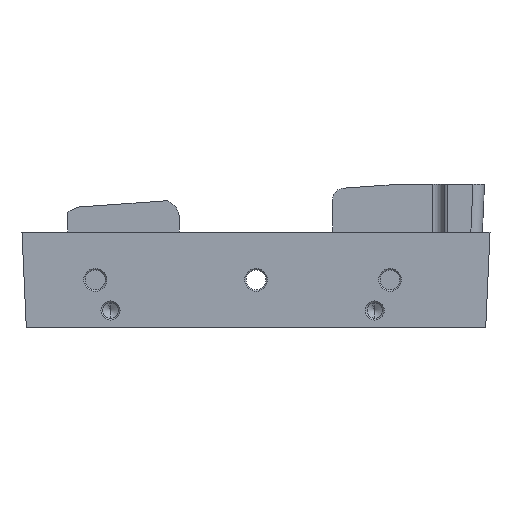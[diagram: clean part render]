
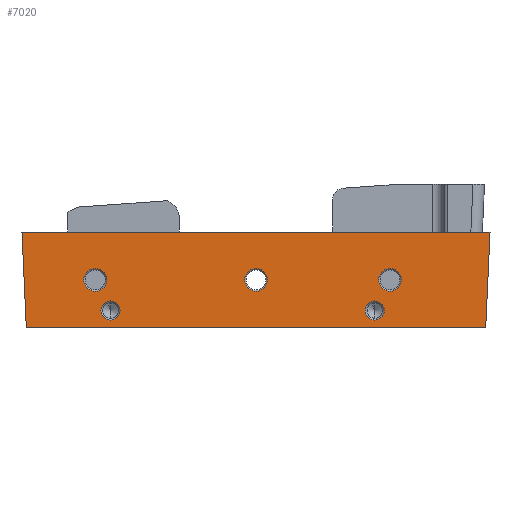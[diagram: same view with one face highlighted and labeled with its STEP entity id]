
A CAD part, left-side view. The second image highlights one B-rep face of the part: STEP entity #7020.
In plain terms, the highlighted planar face has unit normal (-1, 0, 0).
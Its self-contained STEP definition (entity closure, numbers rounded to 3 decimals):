
#948=DIRECTION('',(0.,0.045,-0.999));
#949=VECTOR('',#948,24.935);
#950=CARTESIAN_POINT('',(-73.,-61.117,24.91));
#951=LINE('',#950,#949);
#952=DIRECTION('',(0.,1.,0.));
#953=VECTOR('',#952,120.);
#954=CARTESIAN_POINT('',(-73.,-60.,0.));
#955=LINE('',#954,#953);
#956=DIRECTION('',(0.,0.045,0.999));
#957=VECTOR('',#956,25.025);
#958=CARTESIAN_POINT('',(-73.,60.,0.));
#959=LINE('',#958,#957);
#960=DIRECTION('',(0.,-1.,0.));
#961=VECTOR('',#960,120.24);
#962=CARTESIAN_POINT('',(-73.,61.121,25.));
#963=LINE('',#962,#961);
#964=DIRECTION('',(0.,-0.999,-0.045));
#965=VECTOR('',#964,2.);
#966=CARTESIAN_POINT('',(-73.,-59.119,25.));
#967=LINE('',#966,#965);
#968=CARTESIAN_POINT('',(-73.,-31.,4.5));
#969=DIRECTION('',(-1.,0.,0.));
#970=DIRECTION('',(0.,0.,1.));
#971=AXIS2_PLACEMENT_3D('',#968,#969,#970);
#973=CARTESIAN_POINT('',(-73.,-31.,4.5));
#974=DIRECTION('',(-1.,0.,0.));
#975=DIRECTION('',(0.,0.,-1.));
#976=AXIS2_PLACEMENT_3D('',#973,#974,#975);
#978=CARTESIAN_POINT('',(-73.,38.,4.5));
#979=DIRECTION('',(-1.,0.,0.));
#980=DIRECTION('',(0.,0.,1.));
#981=AXIS2_PLACEMENT_3D('',#978,#979,#980);
#983=CARTESIAN_POINT('',(-73.,38.,4.5));
#984=DIRECTION('',(-1.,0.,0.));
#985=DIRECTION('',(0.,0.,-1.));
#986=AXIS2_PLACEMENT_3D('',#983,#984,#985);
#988=CARTESIAN_POINT('',(-73.,-35.,12.5));
#989=DIRECTION('',(-1.,0.,0.));
#990=DIRECTION('',(0.,0.,-1.));
#991=AXIS2_PLACEMENT_3D('',#988,#989,#990);
#993=CARTESIAN_POINT('',(-73.,-35.,12.5));
#994=DIRECTION('',(-1.,0.,0.));
#995=DIRECTION('',(0.,0.,1.));
#996=AXIS2_PLACEMENT_3D('',#993,#994,#995);
#998=CARTESIAN_POINT('',(-73.,0.,12.5));
#999=DIRECTION('',(-1.,0.,0.));
#1000=DIRECTION('',(0.,0.,-1.));
#1001=AXIS2_PLACEMENT_3D('',#998,#999,#1000);
#1003=CARTESIAN_POINT('',(-73.,0.,12.5));
#1004=DIRECTION('',(-1.,0.,0.));
#1005=DIRECTION('',(0.,0.,1.));
#1006=AXIS2_PLACEMENT_3D('',#1003,#1004,#1005);
#1008=CARTESIAN_POINT('',(-73.,42.,12.5));
#1009=DIRECTION('',(-1.,0.,0.));
#1010=DIRECTION('',(0.,0.,1.));
#1011=AXIS2_PLACEMENT_3D('',#1008,#1009,#1010);
#1013=CARTESIAN_POINT('',(-73.,42.,12.5));
#1014=DIRECTION('',(-1.,0.,0.));
#1015=DIRECTION('',(0.,0.,-1.));
#1016=AXIS2_PLACEMENT_3D('',#1013,#1014,#1015);
#4843=CARTESIAN_POINT('',(-73.,-61.117,24.91));
#4844=VERTEX_POINT('',#4843);
#4845=CARTESIAN_POINT('',(-73.,-59.119,25.));
#4846=VERTEX_POINT('',#4845);
#4901=CARTESIAN_POINT('',(-73.,61.121,25.));
#4902=VERTEX_POINT('',#4901);
#5118=CARTESIAN_POINT('',(-73.,-60.,0.));
#5119=VERTEX_POINT('',#5118);
#5120=CARTESIAN_POINT('',(-73.,60.,0.));
#5121=VERTEX_POINT('',#5120);
#5186=CARTESIAN_POINT('',(-73.,-31.,7.));
#5187=CARTESIAN_POINT('',(-73.,-31.,2.));
#5188=VERTEX_POINT('',#5186);
#5189=VERTEX_POINT('',#5187);
#5190=CARTESIAN_POINT('',(-73.,38.,7.));
#5191=CARTESIAN_POINT('',(-73.,38.,2.));
#5192=VERTEX_POINT('',#5190);
#5193=VERTEX_POINT('',#5191);
#5194=CARTESIAN_POINT('',(-73.,-35.,9.5));
#5195=CARTESIAN_POINT('',(-73.,-35.,15.5));
#5196=VERTEX_POINT('',#5194);
#5197=VERTEX_POINT('',#5195);
#5198=CARTESIAN_POINT('',(-73.,0.,9.5));
#5199=CARTESIAN_POINT('',(-73.,0.,15.5));
#5200=VERTEX_POINT('',#5198);
#5201=VERTEX_POINT('',#5199);
#5202=CARTESIAN_POINT('',(-73.,42.,15.5));
#5203=CARTESIAN_POINT('',(-73.,42.,9.5));
#5204=VERTEX_POINT('',#5202);
#5205=VERTEX_POINT('',#5203);
#6977=CARTESIAN_POINT('',(-73.,60.,0.));
#6978=DIRECTION('',(1.,0.,0.));
#6979=DIRECTION('',(0.,1.,0.));
#6980=AXIS2_PLACEMENT_3D('',#6977,#6978,#6979);
#6981=PLANE('',#6980);
#6982=ORIENTED_EDGE('',*,*,#6972,.T.);
#6983=ORIENTED_EDGE('',*,*,#6869,.T.);
#6985=ORIENTED_EDGE('',*,*,#6984,.T.);
#6986=ORIENTED_EDGE('',*,*,#6176,.T.);
#6987=ORIENTED_EDGE('',*,*,#6057,.T.);
#6988=EDGE_LOOP('',(#6982,#6983,#6985,#6986,#6987));
#6989=FACE_OUTER_BOUND('',#6988,.F.);
#6991=ORIENTED_EDGE('',*,*,#6990,.T.);
#6993=ORIENTED_EDGE('',*,*,#6992,.T.);
#6994=EDGE_LOOP('',(#6991,#6993));
#6995=FACE_BOUND('',#6994,.F.);
#6997=ORIENTED_EDGE('',*,*,#6996,.T.);
#6999=ORIENTED_EDGE('',*,*,#6998,.T.);
#7000=EDGE_LOOP('',(#6997,#6999));
#7001=FACE_BOUND('',#7000,.F.);
#7003=ORIENTED_EDGE('',*,*,#7002,.T.);
#7005=ORIENTED_EDGE('',*,*,#7004,.T.);
#7006=EDGE_LOOP('',(#7003,#7005));
#7007=FACE_BOUND('',#7006,.F.);
#7009=ORIENTED_EDGE('',*,*,#7008,.T.);
#7011=ORIENTED_EDGE('',*,*,#7010,.T.);
#7012=EDGE_LOOP('',(#7009,#7011));
#7013=FACE_BOUND('',#7012,.F.);
#7015=ORIENTED_EDGE('',*,*,#7014,.T.);
#7017=ORIENTED_EDGE('',*,*,#7016,.T.);
#7018=EDGE_LOOP('',(#7015,#7017));
#7019=FACE_BOUND('',#7018,.F.);
#7020=ADVANCED_FACE('',(#6989,#6995,#7001,#7007,#7013,#7019),#6981,.F.);
#972=CIRCLE('',#971,2.5);
#977=CIRCLE('',#976,2.5);
#982=CIRCLE('',#981,2.5);
#987=CIRCLE('',#986,2.5);
#992=CIRCLE('',#991,3.);
#997=CIRCLE('',#996,3.);
#1002=CIRCLE('',#1001,3.);
#1007=CIRCLE('',#1006,3.);
#1012=CIRCLE('',#1011,3.);
#1017=CIRCLE('',#1016,3.);
#6057=EDGE_CURVE('',#4846,#4844,#967,.T.);
#6176=EDGE_CURVE('',#4902,#4846,#963,.T.);
#6869=EDGE_CURVE('',#5119,#5121,#955,.T.);
#6972=EDGE_CURVE('',#4844,#5119,#951,.T.);
#6984=EDGE_CURVE('',#5121,#4902,#959,.T.);
#6990=EDGE_CURVE('',#5188,#5189,#972,.T.);
#6992=EDGE_CURVE('',#5189,#5188,#977,.T.);
#6996=EDGE_CURVE('',#5192,#5193,#982,.T.);
#6998=EDGE_CURVE('',#5193,#5192,#987,.T.);
#7002=EDGE_CURVE('',#5196,#5197,#992,.T.);
#7004=EDGE_CURVE('',#5197,#5196,#997,.T.);
#7008=EDGE_CURVE('',#5200,#5201,#1002,.T.);
#7010=EDGE_CURVE('',#5201,#5200,#1007,.T.);
#7014=EDGE_CURVE('',#5204,#5205,#1012,.T.);
#7016=EDGE_CURVE('',#5205,#5204,#1017,.T.);
